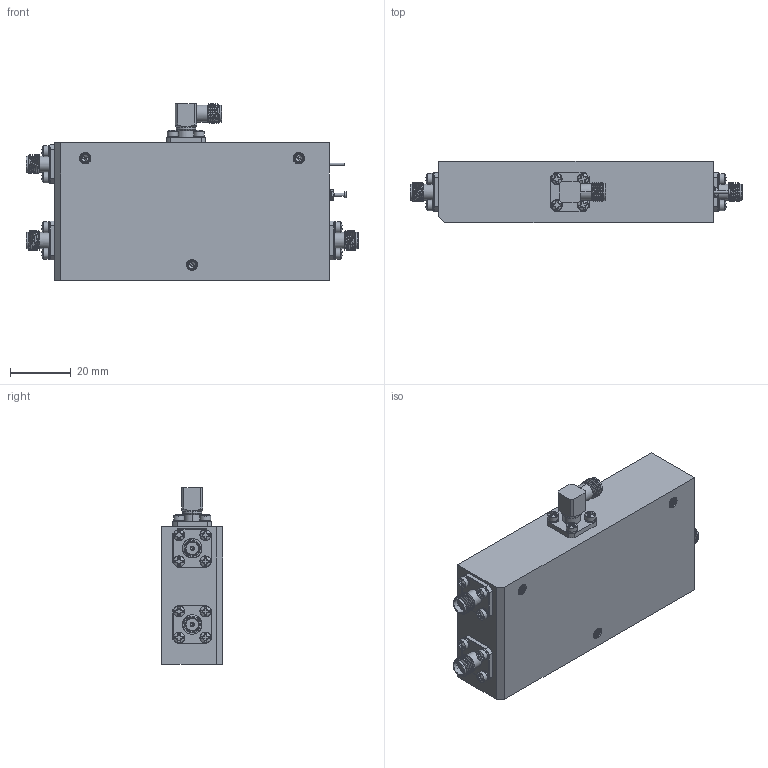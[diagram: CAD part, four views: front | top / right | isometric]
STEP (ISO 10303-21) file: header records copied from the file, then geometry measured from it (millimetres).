
FILE_DESCRIPTION (( 'STEP AP214' ), '1' );
FILE_NAME ('PVA-7D8G18G-2-SFF.STEP', '2026-06-10T15:30:01', ( '' ), ( '' ), 'SwSTEP 2.0', 'SolidWorks 2025', '' );
FILE_SCHEMA (( 'AUTOMOTIVE_DESIGN' ));
Length unit declared in the file: inch
Products named in the file (1): PVA-7D8G18G-2-SFF
Bounding box: 108.9 x 20.13 x 57.83 mm (x, y, z)
Volume: 83622.8 mm3; surface area: 25794.2 mm2
Topology: 61 solids, 61 shells, 1376 faces, 4013 edges, 2992 vertices
Faces by surface type: plane 732, cylinder 284, cone 140, bspline 93, torus 87, sphere 40
Full cylindrical faces by diameter (mm): 0.381 x3, 0.635 x5, 0.889 x3, 1.016 x3, 1.067 x1, 1.27 x4, 1.321 x1, 1.702 x3, 1.778 x17, 1.93 x2, 2.057 x4, 2.184 x34, 2.565 x4, 2.591 x12, 3.15 x3, 3.302 x3, 3.556 x16, 3.716 x3, 4.191 x6, 4.597 x3, 5.283 x6
Entity records: 84085 total; most frequent: CARTESIAN_POINT 31596, ORIENTED_EDGE 7394, DIRECTION 6646, EDGE_CURVE 3697, VERTEX_POINT 2946, AXIS2_PLACEMENT_3D 2409, EDGE_LOOP 1911, VECTOR 1828
